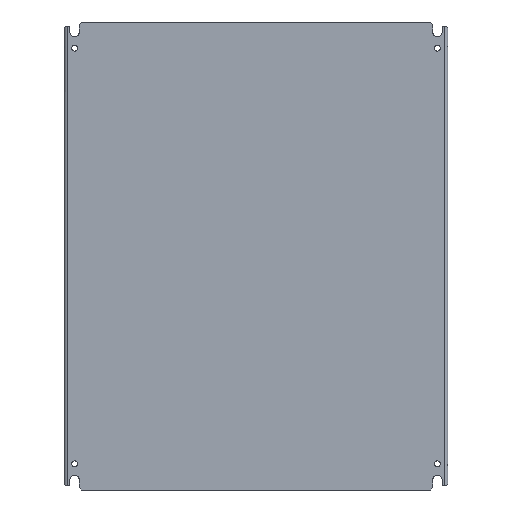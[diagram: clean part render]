
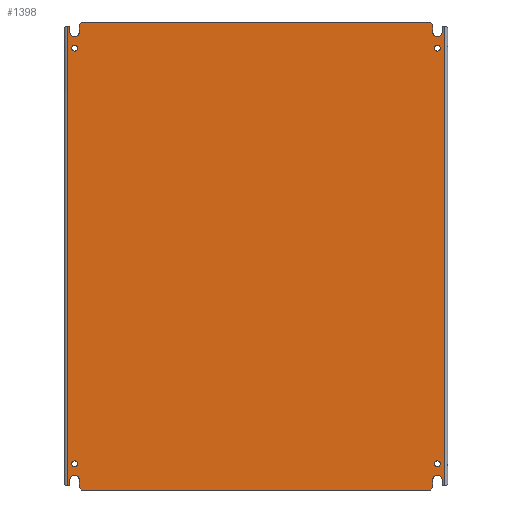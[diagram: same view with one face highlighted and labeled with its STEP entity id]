
A CAD part, front view. The second image highlights one B-rep face of the part: STEP entity #1398.
In plain terms, the highlighted planar face has unit normal (0, -1, 0).
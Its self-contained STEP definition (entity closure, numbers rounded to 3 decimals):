
#86=CIRCLE('',#1480,5.556);
#87=CIRCLE('',#1487,5.556);
#90=CIRCLE('',#1494,5.556);
#91=CIRCLE('',#1501,5.556);
#92=CIRCLE('',#1504,3.569);
#93=CIRCLE('',#1506,3.569);
#94=CIRCLE('',#1508,3.569);
#95=CIRCLE('',#1510,3.569);
#312=ORIENTED_EDGE('',*,*,#634,.F.);
#313=ORIENTED_EDGE('',*,*,#508,.T.);
#314=ORIENTED_EDGE('',*,*,#606,.T.);
#315=ORIENTED_EDGE('',*,*,#604,.T.);
#316=ORIENTED_EDGE('',*,*,#602,.T.);
#317=ORIENTED_EDGE('',*,*,#600,.T.);
#318=ORIENTED_EDGE('',*,*,#598,.F.);
#319=ORIENTED_EDGE('',*,*,#596,.T.);
#320=ORIENTED_EDGE('',*,*,#594,.T.);
#321=ORIENTED_EDGE('',*,*,#592,.T.);
#322=ORIENTED_EDGE('',*,*,#590,.T.);
#323=ORIENTED_EDGE('',*,*,#635,.T.);
#324=ORIENTED_EDGE('',*,*,#636,.T.);
#325=ORIENTED_EDGE('',*,*,#637,.T.);
#326=ORIENTED_EDGE('',*,*,#628,.T.);
#327=ORIENTED_EDGE('',*,*,#626,.T.);
#328=ORIENTED_EDGE('',*,*,#624,.T.);
#329=ORIENTED_EDGE('',*,*,#622,.T.);
#330=ORIENTED_EDGE('',*,*,#620,.F.);
#331=ORIENTED_EDGE('',*,*,#618,.T.);
#332=ORIENTED_EDGE('',*,*,#616,.T.);
#333=ORIENTED_EDGE('',*,*,#614,.T.);
#334=ORIENTED_EDGE('',*,*,#612,.T.);
#335=ORIENTED_EDGE('',*,*,#610,.T.);
#336=ORIENTED_EDGE('',*,*,#633,.T.);
#337=ORIENTED_EDGE('',*,*,#632,.T.);
#338=ORIENTED_EDGE('',*,*,#631,.T.);
#339=ORIENTED_EDGE('',*,*,#630,.T.);
#508=EDGE_CURVE('',#708,#709,#836,.T.);
#590=EDGE_CURVE('',#773,#772,#900,.T.);
#592=EDGE_CURVE('',#774,#773,#86,.T.);
#594=EDGE_CURVE('',#775,#774,#903,.T.);
#596=EDGE_CURVE('',#776,#775,#905,.T.);
#598=EDGE_CURVE('',#776,#777,#907,.T.);
#600=EDGE_CURVE('',#778,#777,#909,.T.);
#602=EDGE_CURVE('',#779,#778,#911,.T.);
#604=EDGE_CURVE('',#780,#779,#87,.T.);
#606=EDGE_CURVE('',#709,#780,#914,.T.);
#610=EDGE_CURVE('',#784,#783,#916,.T.);
#612=EDGE_CURVE('',#785,#784,#918,.T.);
#614=EDGE_CURVE('',#786,#785,#90,.T.);
#616=EDGE_CURVE('',#787,#786,#921,.T.);
#618=EDGE_CURVE('',#788,#787,#923,.T.);
#620=EDGE_CURVE('',#788,#789,#925,.T.);
#622=EDGE_CURVE('',#790,#789,#927,.T.);
#624=EDGE_CURVE('',#791,#790,#929,.T.);
#626=EDGE_CURVE('',#792,#791,#91,.T.);
#628=EDGE_CURVE('',#793,#792,#932,.T.);
#630=EDGE_CURVE('',#794,#794,#92,.T.);
#631=EDGE_CURVE('',#795,#795,#93,.T.);
#632=EDGE_CURVE('',#796,#796,#94,.T.);
#633=EDGE_CURVE('',#797,#797,#95,.T.);
#634=EDGE_CURVE('',#708,#783,#934,.T.);
#635=EDGE_CURVE('',#772,#798,#935,.T.);
#636=EDGE_CURVE('',#798,#799,#936,.T.);
#637=EDGE_CURVE('',#799,#793,#937,.T.);
#708=VERTEX_POINT('',#1921);
#709=VERTEX_POINT('',#1922);
#772=VERTEX_POINT('',#2087);
#773=VERTEX_POINT('',#2089);
#774=VERTEX_POINT('',#2093);
#775=VERTEX_POINT('',#2097);
#776=VERTEX_POINT('',#2101);
#777=VERTEX_POINT('',#2105);
#778=VERTEX_POINT('',#2109);
#779=VERTEX_POINT('',#2113);
#780=VERTEX_POINT('',#2117);
#783=VERTEX_POINT('',#2127);
#784=VERTEX_POINT('',#2129);
#785=VERTEX_POINT('',#2133);
#786=VERTEX_POINT('',#2137);
#787=VERTEX_POINT('',#2141);
#788=VERTEX_POINT('',#2145);
#789=VERTEX_POINT('',#2149);
#790=VERTEX_POINT('',#2153);
#791=VERTEX_POINT('',#2157);
#792=VERTEX_POINT('',#2161);
#793=VERTEX_POINT('',#2165);
#794=VERTEX_POINT('',#2169);
#795=VERTEX_POINT('',#2172);
#796=VERTEX_POINT('',#2175);
#797=VERTEX_POINT('',#2178);
#798=VERTEX_POINT('',#2182);
#799=VERTEX_POINT('',#2184);
#836=LINE('',#1920,#980);
#900=LINE('',#2088,#1044);
#903=LINE('',#2096,#1047);
#905=LINE('',#2100,#1049);
#907=LINE('',#2104,#1051);
#909=LINE('',#2108,#1053);
#911=LINE('',#2112,#1055);
#914=LINE('',#2120,#1058);
#916=LINE('',#2128,#1060);
#918=LINE('',#2132,#1062);
#921=LINE('',#2140,#1065);
#923=LINE('',#2144,#1067);
#925=LINE('',#2148,#1069);
#927=LINE('',#2152,#1071);
#929=LINE('',#2156,#1073);
#932=LINE('',#2164,#1076);
#934=LINE('',#2180,#1078);
#935=LINE('',#2181,#1079);
#936=LINE('',#2183,#1080);
#937=LINE('',#2185,#1081);
#980=VECTOR('',#1554,1000.);
#1044=VECTOR('',#1696,1000.);
#1047=VECTOR('',#1705,1000.);
#1049=VECTOR('',#1709,1000.);
#1051=VECTOR('',#1713,1000.);
#1053=VECTOR('',#1717,1000.);
#1055=VECTOR('',#1721,1000.);
#1058=VECTOR('',#1730,1000.);
#1060=VECTOR('',#1738,1000.);
#1062=VECTOR('',#1742,1000.);
#1065=VECTOR('',#1751,1000.);
#1067=VECTOR('',#1755,1000.);
#1069=VECTOR('',#1759,1000.);
#1071=VECTOR('',#1763,1000.);
#1073=VECTOR('',#1767,1000.);
#1076=VECTOR('',#1776,1000.);
#1078=VECTOR('',#1796,1000.);
#1079=VECTOR('',#1797,1000.);
#1080=VECTOR('',#1798,1000.);
#1081=VECTOR('',#1799,1000.);
#1176=EDGE_LOOP('',(#312,#313,#314,#315,#316,#317,#318,#319,#320,#321,#322,
#323,#324,#325,#326,#327,#328,#329,#330,#331,#332,#333,#334,#335));
#1177=EDGE_LOOP('',(#336));
#1178=EDGE_LOOP('',(#337));
#1179=EDGE_LOOP('',(#338));
#1180=EDGE_LOOP('',(#339));
#1266=FACE_BOUND('',#1176,.T.);
#1267=FACE_BOUND('',#1177,.T.);
#1268=FACE_BOUND('',#1178,.T.);
#1269=FACE_BOUND('',#1179,.T.);
#1270=FACE_BOUND('',#1180,.T.);
#1336=PLANE('',#1511);
#1398=ADVANCED_FACE('',(#1266,#1267,#1268,#1269,#1270),#1336,.F.);
#1480=AXIS2_PLACEMENT_3D('',#2092,#1700,#1701);
#1487=AXIS2_PLACEMENT_3D('',#2116,#1725,#1726);
#1494=AXIS2_PLACEMENT_3D('',#2136,#1746,#1747);
#1501=AXIS2_PLACEMENT_3D('',#2160,#1771,#1772);
#1504=AXIS2_PLACEMENT_3D('',#2168,#1780,#1781);
#1506=AXIS2_PLACEMENT_3D('',#2171,#1784,#1785);
#1508=AXIS2_PLACEMENT_3D('',#2174,#1788,#1789);
#1510=AXIS2_PLACEMENT_3D('',#2177,#1792,#1793);
#1511=AXIS2_PLACEMENT_3D('',#2179,#1794,#1795);
#1554=DIRECTION('',(-1.,0.,0.));
#1696=DIRECTION('',(0.,0.,1.));
#1700=DIRECTION('',(0.,1.,0.));
#1701=DIRECTION('',(1.,0.,0.));
#1705=DIRECTION('',(0.,0.,-1.));
#1709=DIRECTION('',(-0.707,0.,-0.707));
#1713=DIRECTION('',(1.,0.,0.));
#1717=DIRECTION('',(-0.707,0.,0.707));
#1721=DIRECTION('',(0.,0.,1.));
#1725=DIRECTION('',(0.,1.,0.));
#1726=DIRECTION('',(1.,0.,0.));
#1730=DIRECTION('',(0.,0.,-1.));
#1738=DIRECTION('',(1.,0.,0.));
#1742=DIRECTION('',(0.,0.,-1.));
#1746=DIRECTION('',(0.,1.,0.));
#1747=DIRECTION('',(-1.,0.,0.));
#1751=DIRECTION('',(0.,0.,1.));
#1755=DIRECTION('',(0.707,0.,0.707));
#1759=DIRECTION('',(-1.,0.,0.));
#1763=DIRECTION('',(0.707,0.,-0.707));
#1767=DIRECTION('',(0.,0.,-1.));
#1771=DIRECTION('',(0.,1.,0.));
#1772=DIRECTION('',(-1.,0.,0.));
#1776=DIRECTION('',(0.,0.,1.));
#1780=DIRECTION('',(0.,1.,0.));
#1781=DIRECTION('',(0.,0.,-1.));
#1784=DIRECTION('',(0.,1.,0.));
#1785=DIRECTION('',(0.,0.,-1.));
#1788=DIRECTION('',(0.,1.,0.));
#1789=DIRECTION('',(0.,0.,-1.));
#1792=DIRECTION('',(0.,1.,0.));
#1793=DIRECTION('',(0.,0.,-1.));
#1794=DIRECTION('',(0.,1.,0.));
#1795=DIRECTION('',(0.,0.,1.));
#1796=DIRECTION('',(0.,0.,-1.));
#1797=DIRECTION('',(-1.,0.,0.));
#1798=DIRECTION('',(0.,0.,-1.));
#1799=DIRECTION('',(1.,0.,0.));
#1920=CARTESIAN_POINT('',(230.759,0.,276.555));
#1921=CARTESIAN_POINT('',(227.127,0.,276.555));
#1922=CARTESIAN_POINT('',(223.844,0.,276.555));
#2087=CARTESIAN_POINT('',(-223.844,0.,276.555));
#2088=CARTESIAN_POINT('',(-223.844,0.,269.088));
#2089=CARTESIAN_POINT('',(-223.844,0.,269.088));
#2092=CARTESIAN_POINT('',(-218.288,0.,269.088));
#2093=CARTESIAN_POINT('',(-212.731,0.,269.088));
#2096=CARTESIAN_POINT('',(-212.731,0.,281.559));
#2097=CARTESIAN_POINT('',(-212.731,0.,278.384));
#2100=CARTESIAN_POINT('',(-209.556,0.,281.559));
#2101=CARTESIAN_POINT('',(-209.556,0.,281.559));
#2104=CARTESIAN_POINT('',(-245.466,0.,281.559));
#2105=CARTESIAN_POINT('',(209.556,0.,281.559));
#2108=CARTESIAN_POINT('',(212.731,0.,278.384));
#2109=CARTESIAN_POINT('',(212.731,0.,278.384));
#2112=CARTESIAN_POINT('',(212.731,0.,269.088));
#2113=CARTESIAN_POINT('',(212.731,0.,269.088));
#2116=CARTESIAN_POINT('',(218.288,0.,269.088));
#2117=CARTESIAN_POINT('',(223.844,0.,269.088));
#2120=CARTESIAN_POINT('',(223.844,0.,276.555));
#2127=CARTESIAN_POINT('',(227.127,0.,-276.555));
#2128=CARTESIAN_POINT('',(223.844,0.,-276.555));
#2129=CARTESIAN_POINT('',(223.844,0.,-276.555));
#2132=CARTESIAN_POINT('',(223.844,0.,-269.088));
#2133=CARTESIAN_POINT('',(223.844,0.,-269.088));
#2136=CARTESIAN_POINT('',(218.288,0.,-269.088));
#2137=CARTESIAN_POINT('',(212.731,0.,-269.088));
#2140=CARTESIAN_POINT('',(212.731,0.,-281.559));
#2141=CARTESIAN_POINT('',(212.731,0.,-278.384));
#2144=CARTESIAN_POINT('',(209.556,0.,-281.559));
#2145=CARTESIAN_POINT('',(209.556,0.,-281.559));
#2148=CARTESIAN_POINT('',(245.466,0.,-281.559));
#2149=CARTESIAN_POINT('',(-209.556,0.,-281.559));
#2152=CARTESIAN_POINT('',(-212.731,0.,-278.384));
#2153=CARTESIAN_POINT('',(-212.731,0.,-278.384));
#2156=CARTESIAN_POINT('',(-212.731,0.,-269.088));
#2157=CARTESIAN_POINT('',(-212.731,0.,-269.088));
#2160=CARTESIAN_POINT('',(-218.288,0.,-269.088));
#2161=CARTESIAN_POINT('',(-223.844,0.,-269.088));
#2164=CARTESIAN_POINT('',(-223.844,0.,-269.088));
#2165=CARTESIAN_POINT('',(-223.844,0.,-276.555));
#2168=CARTESIAN_POINT('',(218.288,0.,250.038));
#2169=CARTESIAN_POINT('',(218.288,0.,246.469));
#2171=CARTESIAN_POINT('',(218.288,0.,-250.038));
#2172=CARTESIAN_POINT('',(218.288,0.,-253.606));
#2174=CARTESIAN_POINT('',(-218.288,0.,-250.038));
#2175=CARTESIAN_POINT('',(-218.288,0.,-253.606));
#2177=CARTESIAN_POINT('',(-218.288,0.,250.038));
#2178=CARTESIAN_POINT('',(-218.288,0.,246.469));
#2179=CARTESIAN_POINT('',(-245.466,0.,281.559));
#2180=CARTESIAN_POINT('',(227.127,0.,253.365));
#2181=CARTESIAN_POINT('',(-223.844,0.,276.555));
#2182=CARTESIAN_POINT('',(-227.127,0.,276.555));
#2183=CARTESIAN_POINT('',(-227.127,0.,253.365));
#2184=CARTESIAN_POINT('',(-227.127,0.,-276.555));
#2185=CARTESIAN_POINT('',(-223.844,0.,-276.555));
